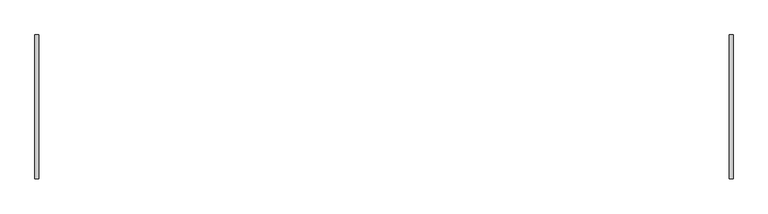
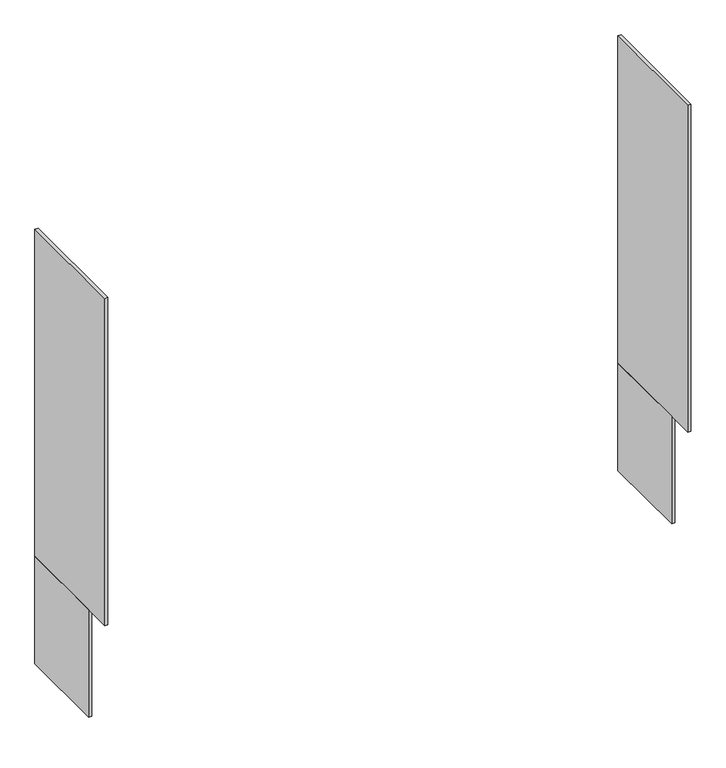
"""IFC4 building model written with IfcOpenShell, lengths in millimetres: furniture geometry, Lockers-Bay-Duracube-Duraloc : LSBSM-1900h x 500d x 400w with 470h Shoe Box Bench."""

from ifc_helpers import new_model, si_unit, frame, origin, origin_with_axes, place, context, project, spatial, polyline, outline, extrude, source, transform, mapped, element, save


def furniture_6c30b95b(model_context):
    return source(origin(), model_context, "Body", "SweptSolid", [
        extrude(outline(polyline([(2413.0, 250.0), (2426.0, 250.0), (2426.0, -135.0), (2413.0, -135.0), (2413.0, 250.0)])), origin_with_axes(), (0.0, 0.0, 1.0), 470.0),
        extrude(outline(polyline([(13.0, 250.0), (13.0, -135.0), (0.0, -135.0), (0.0, 250.0), (13.0, 250.0)])), origin_with_axes(), (0.0, 0.0, 1.0), 470.0),
        extrude(outline(polyline([(2413.0, 250.0), (2426.0, 250.0), (2426.0, -250.0), (2413.0, -250.0), (2413.0, 250.0)])), frame((0.0, 0.0, 470.0), z_axis=(0.0, 0.0, 1.0), x_axis=(1.0, 0.0, 0.0)), (0.0, 0.0, 1.0), 1430.0),
        extrude(outline(polyline([(0.0, 250.0), (13.0, 250.0), (13.0, -250.0), (0.0, -250.0), (0.0, 250.0)])), frame((0.0, 0.0, 470.0), z_axis=(0.0, 0.0, 1.0), x_axis=(1.0, 0.0, 0.0)), (0.0, 0.0, 1.0), 1430.0),
    ])


if __name__ == "__main__":
    model = new_model("IFC4")
    model_context = context("Model", 3, world=origin())
    ifc_project = project(units=[si_unit("LENGTHUNIT", "METRE", prefix="MILLI")], contexts=[model_context])
    site = spatial("IfcSite", under=ifc_project)
    building = spatial("IfcBuilding", under=site)
    placement = place(None, origin())
    furniture_shape = furniture_6c30b95b(model_context)
    element("IfcFurniture", 1, ObjectType="Lockers-Bay-Duracube-Duraloc : LSBSM-1900h x 500d x 400w with 470h Shoe Box Bench", at=placement, inside=building, context=model_context, shape_type="MappedRepresentation", body=[
        mapped(furniture_shape, transform((0.0, 0.0, 0.0), x_axis=(1.0, 0.0, 0.0), y_axis=(0.0, 1.0, 0.0), z_axis=(0.0, 0.0, 1.0))),
    ])
    save(model, "model.ifc")
